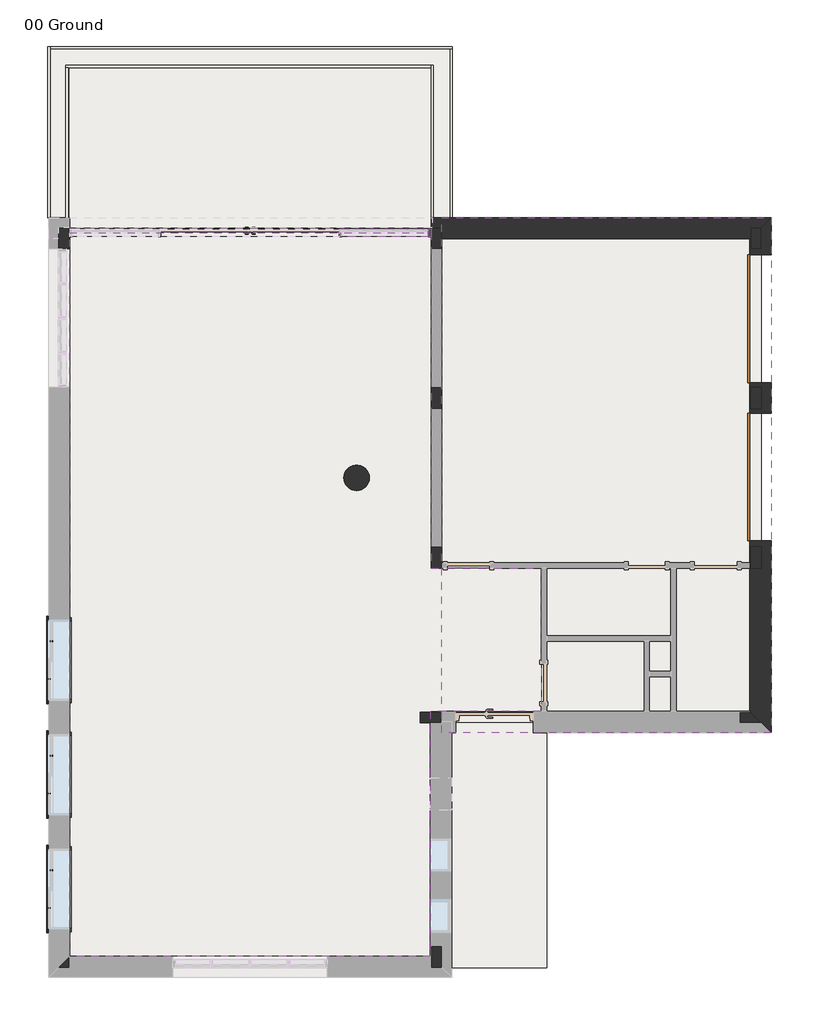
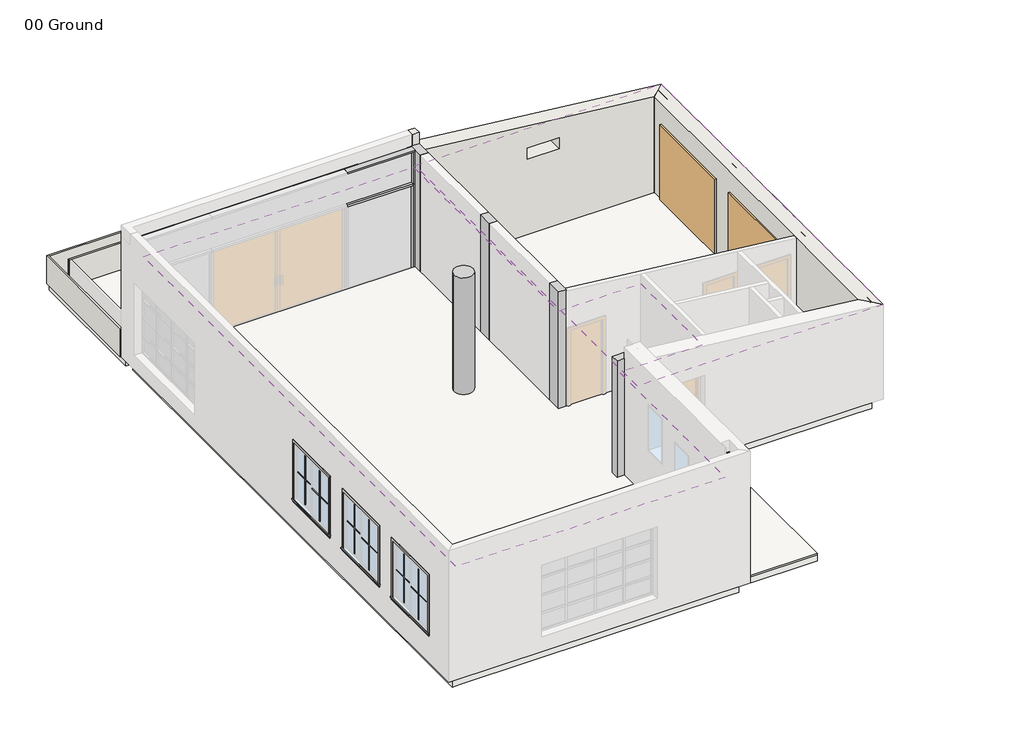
# One storey, part 3 of 3: 15 columns, 12 proxies, 8 walls, 6 slabs, 4 members, 2 doors, 1 covering, 1 roof.
"""IFC4 building model written with IfcOpenShell, lengths in millimetres."""

import ifcopenshell
import ifcopenshell.guid

model = None  # the IFC model being written
_history = None  # IfcOwnerHistory: only IFC2X3 demands one
_inside = {}  # id of a spatial element -> (the spatial element, [elements in it])
_under = {}  # id of a project, library or spatial element -> (it, [spatial elements below it])
_declared = {}  # id of a project -> (the project, [libraries it declares])
_typed = {}  # id of a type object -> (the type object, [elements of that type])
_made_of = {}  # id of a material, layer set ... -> (it, [elements and type objects made of it])


def new_model(schema):
    """Start an empty IFC model of exactly this schema.

    Asked for "IFC4X3", IfcOpenShell would pick the latest addendum, in which some entities
    have other attributes; the version numbers below select the first issue.
    IFC2X3 requires an IfcOwnerHistory on every rooted entity: one is made here for all.
    """
    global model, _history
    if schema == "IFC4X3":
        model = ifcopenshell.file(schema_version=(4, 3, 0, 0))
    else:
        model = ifcopenshell.file(schema=schema)
    _inside.clear()
    _under.clear()
    _declared.clear()
    _typed.clear()
    _made_of.clear()
    _history = None
    if model.schema == "IFC2X3":
        org = make("IfcOrganization", Name="unknown")
        user = make(
            "IfcPersonAndOrganization",
            ThePerson=make("IfcPerson", FamilyName="unknown"),
            TheOrganization=org,
        )
        app = make(
            "IfcApplication",
            ApplicationDeveloper=org,
            Version="unknown",
            ApplicationFullName="unknown",
            ApplicationIdentifier="unknown",
        )
        _history = make(
            "IfcOwnerHistory",
            OwningUser=user,
            OwningApplication=app,
            ChangeAction="ADDED",
            CreationDate=0,
        )
    return model


def make(cls, **values):
    """One entity of the class cls with the attributes given. An attribute that is None is left unset."""
    return model.create_entity(
        cls, **{name: value for name, value in values.items() if value is not None}
    )


def rooted(cls, **values):
    """An entity with a GlobalId (a new one), such as an element, a storey or a relation."""
    return make(cls, GlobalId=ifcopenshell.guid.new(), OwnerHistory=_history, **values)


def si_unit(unit_type, name, prefix=None):
    """IfcSIUnit, for example si_unit("LENGTHUNIT", "METRE", prefix="MILLI")."""
    return make("IfcSIUnit", UnitType=unit_type, Prefix=prefix, Name=name)


def assignment(units):
    """IfcUnitAssignment: the units of a project."""
    return None if units is None else make("IfcUnitAssignment", Units=units)


def point(xyz):
    """IfcCartesianPoint."""
    return None if xyz is None else make("IfcCartesianPoint", Coordinates=xyz)


def direction(xyz):
    """IfcDirection."""
    return None if xyz is None else make("IfcDirection", DirectionRatios=xyz)


def frame(location, z_axis=None, x_axis=None):
    """IfcAxis2Placement3D, a coordinate frame: its origin and axes. An axis left out is left unset."""
    return make(
        "IfcAxis2Placement3D",
        Location=point(location),
        Axis=direction(z_axis),
        RefDirection=direction(x_axis),
    )


def frame_2d(location, x_axis=None):
    """IfcAxis2Placement2D, a coordinate frame in the plane: its origin and x axis."""
    return make(
        "IfcAxis2Placement2D", Location=point(location), RefDirection=direction(x_axis)
    )


def origin():
    """The frame at (0, 0, 0) with its axes left unset."""
    return frame((0.0, 0.0, 0.0))


def origin_with_axes():
    """The frame at (0, 0, 0) with the z axis (0, 0, 1) and the x axis (1, 0, 0) written out."""
    return frame((0.0, 0.0, 0.0), z_axis=(0.0, 0.0, 1.0), x_axis=(1.0, 0.0, 0.0))


def place(relative_to, where):
    """IfcLocalPlacement: puts the frame where relative to a parent placement (None: the world)."""
    return make(
        "IfcLocalPlacement", PlacementRelTo=relative_to, RelativePlacement=where
    )


def context(
    kind, dimensions, precision=None, world=None, true_north=None, identifier=None
):
    """IfcGeometricRepresentationContext, for example the 3D "Model" context."""
    return make(
        "IfcGeometricRepresentationContext",
        ContextIdentifier=identifier,
        ContextType=kind,
        CoordinateSpaceDimension=dimensions,
        Precision=precision,
        WorldCoordinateSystem=world,
        TrueNorth=true_north,
    )


def project(units=None, contexts=None):
    """IfcProject with its units and contexts."""
    return rooted(
        "IfcProject",
        Name="project",
        RepresentationContexts=contexts,
        UnitsInContext=assignment(units),
    )


def spatial(cls, under=None, at=None, **own):
    """A site, building, storey or space (cls), placed at a placement, below another one or the project."""
    s = rooted(cls, ObjectPlacement=at, **own)
    if under is not None:
        _under.setdefault(under.id(), (under, []))[1].append(s)
    return s


def polyline(points):
    """IfcPolyline through the points."""
    return make("IfcPolyline", Points=[point(p) for p in points])


def circle_curve(where, radius):
    """IfcCircle in the frame where."""
    return make("IfcCircle", Position=where, Radius=radius)


def trimmed(basis, trim1, trim2, sense, master):
    """IfcTrimmedCurve: the piece of a basis curve between two trims."""
    return make(
        "IfcTrimmedCurve",
        BasisCurve=basis,
        Trim1=trim1,
        Trim2=trim2,
        SenseAgreement=sense,
        MasterRepresentation=master,
    )


def segment(curve, same_sense, transition):
    """IfcCompositeCurveSegment."""
    return make(
        "IfcCompositeCurveSegment",
        Transition=transition,
        SameSense=same_sense,
        ParentCurve=curve,
    )


def composite_curve(segments, self_intersect=None):
    """IfcCompositeCurve: segments joined end to end."""
    return make("IfcCompositeCurve", Segments=segments, SelfIntersect=self_intersect)


def outline(outer, holes=None, kind="AREA"):
    """IfcArbitraryClosedProfileDef: a profile drawn as a closed curve; with holes, ...WithVoids."""
    if holes is None:
        return make("IfcArbitraryClosedProfileDef", ProfileType=kind, OuterCurve=outer)
    return make(
        "IfcArbitraryProfileDefWithVoids",
        ProfileType=kind,
        OuterCurve=outer,
        InnerCurves=holes,
    )


def extrude(swept, where, along, depth):
    """IfcExtrudedAreaSolid: the profile swept, set in the frame where, extruded along a direction by depth."""
    return make(
        "IfcExtrudedAreaSolid",
        SweptArea=swept,
        Position=where,
        ExtrudedDirection=direction(along),
        Depth=depth,
    )


def faces_of(points, faces, orient=None, outer=None):
    """IfcFace entities. A face is a list of loops; a loop is a list of indices into points, from 0.

    orient and outer hold one flag for each loop. By default every Orientation is true, the
    first loop of a face is its IfcFaceOuterBound and the others are IfcFaceBound.
    """
    made = []
    for i, loops in enumerate(faces):
        bounds = []
        for j, loop in enumerate(loops):
            is_outer = j == 0 if outer is None else outer[i][j]
            bounds.append(
                make(
                    "IfcFaceOuterBound" if is_outer else "IfcFaceBound",
                    Bound=make("IfcPolyLoop", Polygon=[points[k] for k in loop]),
                    Orientation=True if orient is None else orient[i][j],
                )
            )
        made.append(make("IfcFace", Bounds=bounds))
    return made


def faceted_brep(points, faces, orient=None, outer=None, voids=None):
    """IfcFacetedBrep: a solid bounded by flat faces; with voids (closed shells), ...WithVoids."""
    shared = [point(p) for p in points]
    hull = make("IfcClosedShell", CfsFaces=faces_of(shared, faces, orient, outer))
    if voids is None:
        return make("IfcFacetedBrep", Outer=hull)
    return make(
        "IfcFacetedBrepWithVoids",
        Outer=hull,
        Voids=[
            make(cls, CfsFaces=faces_of(shared, fs, o, b)) for cls, fs, o, b in voids
        ],
    )


def shape(context_of_items, identifier, shape_type, items):
    """IfcShapeRepresentation: the items that make up one representation, for example the "Body"."""
    return make(
        "IfcShapeRepresentation",
        ContextOfItems=context_of_items,
        RepresentationIdentifier=identifier,
        RepresentationType=shape_type,
        Items=items,
    )


def source(mapping_origin, context_of_items, identifier, shape_type, items):
    """IfcRepresentationMap: a shape defined once, which mapped items show again and again."""
    return make(
        "IfcRepresentationMap",
        MappingOrigin=mapping_origin,
        MappedRepresentation=shape(context_of_items, identifier, shape_type, items),
    )


def transform(
    local_origin,
    x_axis=None,
    y_axis=None,
    z_axis=None,
    scale=None,
    scale2=None,
    scale3=None,
    uniform=True,
):
    """IfcCartesianTransformationOperator3D, or its non-uniform kind. x_axis, y_axis, z_axis: its Axis1, 2, 3."""
    if uniform:
        return make(
            "IfcCartesianTransformationOperator3D",
            Axis1=direction(x_axis),
            Axis2=direction(y_axis),
            LocalOrigin=point(local_origin),
            Scale=scale,
            Axis3=direction(z_axis),
        )
    return make(
        "IfcCartesianTransformationOperator3DnonUniform",
        Axis1=direction(x_axis),
        Axis2=direction(y_axis),
        LocalOrigin=point(local_origin),
        Scale=scale,
        Axis3=direction(z_axis),
        Scale2=scale2,
        Scale3=scale3,
    )


def mapped(mapping_source, mapping_target):
    """IfcMappedItem: shows the shape of a source again, moved by a transform."""
    return make(
        "IfcMappedItem", MappingSource=mapping_source, MappingTarget=mapping_target
    )


def made_of(thing, what):
    """Note that an element or type object is made of a material, layer set ...; save() writes the relation."""
    if what is not None:
        _made_of.setdefault(what.id(), (what, []))[1].append(thing)
    return thing


def element(
    cls,
    number,
    at=None,
    inside=None,
    cuts=None,
    type_object=None,
    material=None,
    context=None,
    identifier="Body",
    shape_type=None,
    held_by="IfcProductDefinitionShape",
    body=None,
    shapes=None,
    **own,
):
    """One element of the class cls, such as IfcWall. Its Tag is "e" and its number.

    at: its placement. inside: the storey or other place that contains it. cuts: it is an
    opening in that element (IfcRelVoidsElement). A single representation is given by context,
    identifier, shape_type and body (its items); several are given by shapes. held_by: the class
    of the entity that holds the representations. save() writes the other relations.
    """
    e = rooted(cls, Tag="e%d" % number, ObjectPlacement=at, **own)
    if body is not None:
        shapes = [shape(context, identifier, shape_type, body)]
    if shapes is not None:
        e.Representation = make(held_by, Representations=shapes)
    if inside is not None:
        _inside.setdefault(inside.id(), (inside, []))[1].append(e)
    if cuts is not None:
        rooted(
            "IfcRelVoidsElement", RelatingBuildingElement=cuts, RelatedOpeningElement=e
        )
    if type_object is not None:
        _typed.setdefault(type_object.id(), (type_object, []))[1].append(e)
    return made_of(e, material)


def aggregate(whole, parts):
    """IfcRelAggregates: a whole, such as a stair, and the parts it consists of."""
    return rooted("IfcRelAggregates", RelatingObject=whole, RelatedObjects=parts)


def save(model, path):
    """Write the relations noted so far, then the file.

    IfcRelAggregates (storeys below a building ...), IfcRelContainedInSpatialStructure (elements
    in a storey), IfcRelDefinesByType, IfcRelAssociatesMaterial and IfcRelDeclares: one each for
    every whole, place, type object, material and project.
    """
    for whole, parts in _under.values():
        aggregate(whole, parts)
    for where, things in _inside.values():
        rooted(
            "IfcRelContainedInSpatialStructure",
            RelatedElements=things,
            RelatingStructure=where,
        )
    for kind, things in _typed.values():
        rooted("IfcRelDefinesByType", RelatedObjects=things, RelatingType=kind)
    for what, things in _made_of.values():
        rooted("IfcRelAssociatesMaterial", RelatedObjects=things, RelatingMaterial=what)
    for by, libraries in _declared.values():
        rooted("IfcRelDeclares", RelatingContext=by, RelatedDefinitions=libraries)
    model.write(path)


def plane_surface(at):
    """IfcPlane: the flat surface through the origin of the frame at, square to its z axis."""
    return make("IfcPlane", Position=at)


def cylinder_surface(at, radius):
    """IfcCylindricalSurface: all points at the distance radius from the z axis of the frame at."""
    return make("IfcCylindricalSurface", Position=at, Radius=radius)


def advanced_brep(points, edges, surfaces, faces):
    """IfcAdvancedBrep: a solid bounded by faces that lie on surfaces and meet in shared edges.

    An edge is (start, end): straight between two places in points (the first is 0);
    or (start, end, curve); or (start, end, curve, False) where it runs against its curve.
    A face is (place in surfaces, loops), or (place, loops, False) where it looks against
    its surface's normal. A loop lists edges by number (the first is 1), with a minus sign
    where the edge is run from its end to its start. The first loop is the outer one.
    """
    corners = [point(p) for p in points]
    vertices = [make("IfcVertexPoint", VertexGeometry=c) for c in corners]
    made = []
    for start, end, *more in edges:
        made.append(
            make(
                "IfcEdgeCurve",
                EdgeStart=vertices[start],
                EdgeEnd=vertices[end],
                EdgeGeometry=more[0] if more else make("IfcPolyline", Points=[corners[start], corners[end]]),
                SameSense=more[1] if len(more) > 1 else True,
            )
        )
    hull = []
    for where, loops, *sense in faces:
        bounds = []
        for j, loop in enumerate(loops):
            ring = [make("IfcOrientedEdge", EdgeElement=made[abs(k) - 1], Orientation=k > 0) for k in loop]
            bounds.append(
                make(
                    "IfcFaceOuterBound" if j == 0 else "IfcFaceBound",
                    Bound=make("IfcEdgeLoop", EdgeList=ring),
                    Orientation=True,
                )
            )
        hull.append(make("IfcAdvancedFace", Bounds=bounds, FaceSurface=surfaces[where], SameSense=sense[0] if sense else True))
    return make("IfcAdvancedBrep", Outer=make("IfcClosedShell", CfsFaces=hull))


def m_muntin_pattern_2x2_m_muntin_pattern_2x2_30659562(model_context):
    return source(origin(), model_context, "Body", "SweptSolid", [
        extrude(outline(polyline([(683.325, -6.35), (683.325, -332.1375), (670.625, -332.1375), (670.625, -6.35), (0.0, -6.35), (0.0, 6.35), (670.625, 6.35), (670.625, 332.1375), (683.325, 332.1375), (683.325, 6.35), (1353.95, 6.35), (1353.95, -6.35), (683.325, -6.35)])), frame((0.0, 9.525, 0.0), z_axis=(0.0, 1.0, 0.0), x_axis=(0.0, 0.0, 1.0)), (0.0, 0.0, 1.0), 12.7),
        extrude(outline(polyline([(683.325, -6.35), (683.325, -332.1375), (670.625, -332.1375), (670.625, -6.35), (0.0, -6.35), (0.0, 6.35), (670.625, 6.35), (670.625, 332.1375), (683.325, 332.1375), (683.325, 6.35), (1353.95, 6.35), (1353.95, -6.35), (683.325, -6.35)])), frame((0.0, -22.225, 0.0), z_axis=(0.0, 1.0, 0.0), x_axis=(0.0, 0.0, 1.0)), (0.0, 0.0, 1.0), 12.7),
    ])


def m_trim_window_exterior_flat_with_sill_22923e22(model_context):
    return source(origin(), model_context, "Body", "SweptSolid", [
        extrude(outline(polyline([(810.0, -1520.4323709), (810.0, -1580.4323709), (-810.0, -1580.4323709), (-810.0, -1520.4323709), (810.0, -1520.4323709)])), origin_with_axes(), (0.0, 0.0, 1.0), 19.05),
        extrude(outline(polyline([(-1530.0, 38.1), (-1502.4580645, 38.1), (-1500.0, 19.05), (-1500.0, 0.0), (-1520.4323709, 0.0), (-1520.4323709, 19.05), (-1530.0, 19.05), (-1530.0, 38.1)])), frame((-822.7, 0.0, 0.0), z_axis=(1.0, 0.0, 0.0), x_axis=(0.0, 1.0, 0.0)), (0.0, 0.0, 1.0), 1645.4),
        extrude(outline(polyline([(-810.0, 60.0), (810.0, 60.0), (810.0, -1500.0), (750.0, -1500.0), (750.0, 0.0), (-750.0, 0.0), (-750.0, -1500.0), (-810.0, -1500.0), (-810.0, 60.0)])), origin_with_axes(), (0.0, 0.0, 1.0), 19.05),
    ])


def m_trim_window_interior_flat_picture_frame_2e224720(model_context):
    return source(origin(), model_context, "Body", "SweptSolid", [
        extrude(outline(polyline([(797.3, 47.3), (797.3, -1547.3), (-797.3, -1547.3), (-797.3, 47.3), (797.3, 47.3)]), holes=[polyline([(737.3, -12.7), (-737.3, -12.7), (-737.3, -1487.3), (737.3, -1487.3), (737.3, -12.7)])]), origin_with_axes(), (0.0, 0.0, 1.0), 30.0),
    ])


def m_door_overhead_sectional_2400_x_2000mm_9fe30cd6(model_context):
    return source(origin(), model_context, "Body", "SweptSolid", [
        extrude(outline(polyline([(1200.0, -199.0), (1200.0, -239.0), (-1200.0, -239.0), (-1200.0, -199.0), (1200.0, -199.0)])), origin_with_axes(), (0.0, 0.0, 1.0), 2000.0),
    ])


def rectangular_mullion_50_x_150mm_c8600b0d(model_context):
    return source(origin(), model_context, "Body", "SweptSolid", [
        extrude(outline(polyline([(0.0, 75.0), (0.0, -75.0), (-50.0, -75.0), (-50.0, 75.0), (0.0, 75.0)])), frame((0.0, 0.0, -1700.0), z_axis=(0.0, 0.0, 1.0), x_axis=(1.0, 0.0, 0.0)), (0.0, 0.0, 1.0), 1700.0),
    ])


def rectangular_mullion_50_x_150mm_7893aaae(model_context):
    return source(origin(), model_context, "Body", "SweptSolid", [
        extrude(outline(polyline([(25.0, 75.0), (25.0, -75.0), (-25.0, -75.0), (-25.0, 75.0), (25.0, 75.0)])), frame((0.0, 0.0, -1650.0), z_axis=(0.0, 0.0, 1.0), x_axis=(1.0, 0.0, 0.0)), (0.0, 0.0, 1.0), 1650.0),
    ])


def rectangular_mullion_50_x_150mm_8753ce05(model_context):
    return source(origin(), model_context, "Body", "SweptSolid", [
        extrude(outline(polyline([(0.0, 75.0), (0.0, -75.0), (-50.0, -75.0), (-50.0, 75.0), (0.0, 75.0)])), frame((0.0, 0.0, -2300.0), z_axis=(0.0, 0.0, 1.0), x_axis=(1.0, 0.0, 0.0)), (0.0, 0.0, 1.0), 2300.0),
    ])


def rectangular_mullion_50_x_150mm_324a6438(model_context):
    return source(origin(), model_context, "Body", "SweptSolid", [
        extrude(outline(polyline([(0.0, 75.0), (0.0, -75.0), (-50.0, -75.0), (-50.0, 75.0), (0.0, 75.0)])), frame((0.0, 0.0, -850.0), z_axis=(0.0, 0.0, 1.0), x_axis=(1.0, 0.0, 0.0)), (0.0, 0.0, 1.0), 850.0),
    ])


model = new_model("IFC4")

# Units and contexts
model_context = context("Model", 3, world=origin())
ifc_project = project(units=[si_unit("LENGTHUNIT", "METRE", prefix="MILLI")], contexts=[model_context])

# Site, building, storey
site = spatial("IfcSite", under=ifc_project)
building = spatial("IfcBuilding", under=site)
storey = spatial("IfcBuildingStorey", under=building, Name="00 Ground", Elevation=0.0)

# Proxies
placement = place(None, origin())
m_muntin_pattern_2x2_m_muntin_pattern_2x2_shape = m_muntin_pattern_2x2_m_muntin_pattern_2x2_30659562(model_context)
element("IfcBuildingElementProxy", 1, Name="M_Muntin Pattern_2x2 : M_Muntin Pattern_2x2", ObjectType="M_Muntin Pattern_2x2 : M_Muntin Pattern_2x2", at=placement, inside=storey, context=model_context, shape_type="MappedRepresentation", body=[
    mapped(m_muntin_pattern_2x2_m_muntin_pattern_2x2_shape, transform((-8453.5657999, -5733.3476648, 882.55), x_axis=(0.0, 1.0, 0.0), y_axis=(-1.0, 0.0, 0.0), z_axis=(0.0, 0.0, 1.0))),
])
element("IfcBuildingElementProxy", 2, Name="M_Muntin Pattern_2x2 : M_Muntin Pattern_2x2", ObjectType="M_Muntin Pattern_2x2 : M_Muntin Pattern_2x2", at=placement, inside=storey, context=model_context, shape_type="MappedRepresentation", body=[
    mapped(m_muntin_pattern_2x2_m_muntin_pattern_2x2_shape, transform((-8498.0157999, -6442.0726648, 882.55), x_axis=(0.0, 1.0, 0.0), y_axis=(-1.0, 0.0, 0.0), z_axis=(0.0, 0.0, 1.0))),
])
element("IfcBuildingElementProxy", 3, Name="M_Muntin Pattern_2x2 : M_Muntin Pattern_2x2", ObjectType="M_Muntin Pattern_2x2 : M_Muntin Pattern_2x2", at=placement, inside=storey, context=model_context, shape_type="MappedRepresentation", body=[
    mapped(m_muntin_pattern_2x2_m_muntin_pattern_2x2_shape, transform((-8453.5657999, -3583.3476648, 882.55), x_axis=(0.0, 1.0, 0.0), y_axis=(-1.0, 0.0, 0.0), z_axis=(0.0, 0.0, 1.0))),
])
element("IfcBuildingElementProxy", 4, Name="M_Muntin Pattern_2x2 : M_Muntin Pattern_2x2", ObjectType="M_Muntin Pattern_2x2 : M_Muntin Pattern_2x2", at=placement, inside=storey, context=model_context, shape_type="MappedRepresentation", body=[
    mapped(m_muntin_pattern_2x2_m_muntin_pattern_2x2_shape, transform((-8498.0157999, -4292.0726648, 882.55), x_axis=(0.0, 1.0, 0.0), y_axis=(-1.0, 0.0, 0.0), z_axis=(0.0, 0.0, 1.0))),
])
element("IfcBuildingElementProxy", 5, Name="M_Muntin Pattern_2x2 : M_Muntin Pattern_2x2", ObjectType="M_Muntin Pattern_2x2 : M_Muntin Pattern_2x2", at=placement, inside=storey, context=model_context, shape_type="MappedRepresentation", body=[
    mapped(m_muntin_pattern_2x2_m_muntin_pattern_2x2_shape, transform((-8453.5657999, -1433.3476648, 882.55), x_axis=(0.0, 1.0, 0.0), y_axis=(-1.0, 0.0, 0.0), z_axis=(0.0, 0.0, 1.0))),
])
element("IfcBuildingElementProxy", 6, Name="M_Muntin Pattern_2x2 : M_Muntin Pattern_2x2", ObjectType="M_Muntin Pattern_2x2 : M_Muntin Pattern_2x2", at=placement, inside=storey, context=model_context, shape_type="MappedRepresentation", body=[
    mapped(m_muntin_pattern_2x2_m_muntin_pattern_2x2_shape, transform((-8498.0157999, -2142.0726648, 882.55), x_axis=(0.0, 1.0, 0.0), y_axis=(-1.0, 0.0, 0.0), z_axis=(0.0, 0.0, 1.0))),
])
m_trim_window_exterior_flat_with_sill_shape = m_trim_window_exterior_flat_with_sill_22923e22(model_context)
element("IfcBuildingElementProxy", 7, Name="M_Trim-Window-Exterior-Flat : with Sill", ObjectType="M_Trim-Window-Exterior-Flat : with Sill", at=placement, inside=storey, context=model_context, shape_type="MappedRepresentation", body=[
    mapped(m_trim_window_exterior_flat_with_sill_shape, transform((-8507.5407999, -6087.7101648, 2300.0), x_axis=(0.0, -1.0, 0.0), y_axis=(0.0, 0.0, 1.0), z_axis=(-1.0, 0.0, 0.0))),
])
element("IfcBuildingElementProxy", 8, Name="M_Trim-Window-Exterior-Flat : with Sill", ObjectType="M_Trim-Window-Exterior-Flat : with Sill", at=placement, inside=storey, context=model_context, shape_type="MappedRepresentation", body=[
    mapped(m_trim_window_exterior_flat_with_sill_shape, transform((-8507.5407999, -3937.7101648, 2300.0), x_axis=(0.0, -1.0, 0.0), y_axis=(0.0, 0.0, 1.0), z_axis=(-1.0, 0.0, 0.0))),
])
element("IfcBuildingElementProxy", 9, Name="M_Trim-Window-Exterior-Flat : with Sill", ObjectType="M_Trim-Window-Exterior-Flat : with Sill", at=placement, inside=storey, context=model_context, shape_type="MappedRepresentation", body=[
    mapped(m_trim_window_exterior_flat_with_sill_shape, transform((-8507.5407999, -1787.7101648, 2300.0), x_axis=(0.0, -1.0, 0.0), y_axis=(0.0, 0.0, 1.0), z_axis=(-1.0, 0.0, 0.0))),
])
m_trim_window_interior_flat_picture_frame_shape = m_trim_window_interior_flat_picture_frame_2e224720(model_context)
element("IfcBuildingElementProxy", 10, Name="M_Trim-Window-Interior-Flat : Picture Frame", ObjectType="M_Trim-Window-Interior-Flat : Picture Frame", at=placement, inside=storey, context=model_context, shape_type="MappedRepresentation", body=[
    mapped(m_trim_window_interior_flat_picture_frame_shape, transform((-8109.5407999, -6087.7101648, 2300.0), x_axis=(0.0, 1.0, 0.0), y_axis=(0.0, 0.0, 1.0), z_axis=(1.0, 0.0, 0.0))),
])
element("IfcBuildingElementProxy", 11, Name="M_Trim-Window-Interior-Flat : Picture Frame", ObjectType="M_Trim-Window-Interior-Flat : Picture Frame", at=placement, inside=storey, context=model_context, shape_type="MappedRepresentation", body=[
    mapped(m_trim_window_interior_flat_picture_frame_shape, transform((-8109.5407999, -3937.7101648, 2300.0), x_axis=(0.0, 1.0, 0.0), y_axis=(0.0, 0.0, 1.0), z_axis=(1.0, 0.0, 0.0))),
])
element("IfcBuildingElementProxy", 12, Name="M_Trim-Window-Interior-Flat : Picture Frame", ObjectType="M_Trim-Window-Interior-Flat : Picture Frame", at=placement, inside=storey, context=model_context, shape_type="MappedRepresentation", body=[
    mapped(m_trim_window_interior_flat_picture_frame_shape, transform((-8109.5407999, -1787.7101648, 2300.0), x_axis=(0.0, 1.0, 0.0), y_axis=(0.0, 0.0, 1.0), z_axis=(1.0, 0.0, 0.0))),
])

# Columns
element("IfcColumn", 13, ObjectType="M_Concrete-Rectangular-Column : 200 x 400mm", at=placement, inside=storey, context=model_context, shape_type="Brep", body=[
    faceted_brep([(-8122.5407999, 6337.2898352, 0.0), (-8122.5407999, 5937.2898352, 0.0), (-8322.5407999, 5937.2898352, 0.0), (-8322.5407999, 6337.2898352, 0.0), (-8122.5407999, 6337.2898352, 3200.0), (-8122.5407999, 5937.2898352, 3200.0), (-8122.5407999, 5937.2898352, 2300.0), (-8122.5407999, 5937.2898352, 400.0), (-8322.5407999, 5937.2898352, 3200.0), (-8322.5407999, 5937.2898352, 2300.0), (-8322.5407999, 5937.2898352, 400.0), (-8322.5407999, 6124.2898352, 3200.0), (-8322.5407999, 6337.2898352, 3200.0)], [[[0, 1, 2, 3]], [[1, 0, 4, 5, 6, 7]], [[2, 1, 7, 6, 5, 8, 9, 10]], [[3, 2, 10, 9, 8, 11, 12]], [[0, 3, 12, 4]], [[5, 4, 12, 11, 8]]]),
])
element("IfcColumn", 14, ObjectType="M_Concrete-Rectangular-Column : 200 x 400mm", at=placement, inside=storey, context=model_context, shape_type="SweptSolid", body=[
    extrude(outline(polyline([(-8122.5407999, 3337.2898352), (-8122.5407999, 2937.2898352), (-8322.5407999, 2937.2898352), (-8322.5407999, 3337.2898352), (-8122.5407999, 3337.2898352)])), origin_with_axes(), (0.0, 0.0, 1.0), 3200.0),
])
element("IfcColumn", 15, ObjectType="M_Concrete-Rectangular-Column : 200 x 400mm", at=placement, inside=storey, context=model_context, shape_type="SweptSolid", body=[
    extrude(outline(polyline([(-8122.5407999, 337.2898352), (-8122.5407999, -62.7101648), (-8322.5407999, -62.7101648), (-8322.5407999, 337.2898352), (-8122.5407999, 337.2898352)])), origin_with_axes(), (0.0, 0.0, 1.0), 3200.0),
])
element("IfcColumn", 16, ObjectType="M_Concrete-Rectangular-Column : 200 x 400mm", at=placement, inside=storey, context=model_context, shape_type="SweptSolid", body=[
    extrude(outline(polyline([(-8122.5407999, -2662.7101648), (-8122.5407999, -3062.7101648), (-8322.5407999, -3062.7101648), (-8322.5407999, -2662.7101648), (-8122.5407999, -2662.7101648)])), origin_with_axes(), (0.0, 0.0, 1.0), 3200.0),
])
element("IfcColumn", 17, ObjectType="M_Concrete-Rectangular-Column : 200 x 400mm", at=placement, inside=storey, context=model_context, shape_type="SweptSolid", body=[
    extrude(outline(polyline([(-1122.5407999, 337.2898352), (-1122.5407999, -62.7101648), (-1322.5407999, -62.7101648), (-1322.5407999, 337.2898352), (-1122.5407999, 337.2898352)])), origin_with_axes(), (0.0, 0.0, 1.0), 3200.0),
])
element("IfcColumn", 18, ObjectType="M_Concrete-Rectangular-Column : 200 x 400mm", at=placement, inside=storey, context=model_context, shape_type="Brep", body=[
    faceted_brep([(-1522.5407999, -2762.7101648, 0.0), (-1122.5407999, -2762.7101648, 0.0), (-1122.5407999, -2948.7101648, 0.0), (-1122.5407999, -2962.7101648, 0.0), (-1335.5407999, -2962.7101648, 0.0), (-1522.5407999, -2962.7101648, 0.0), (-1522.5407999, -2762.7101648, 3200.0), (-1122.5407999, -2762.7101648, 3200.0), (-1122.5407999, -2962.7101648, 3200.0), (-1522.5407999, -2962.7101648, 3200.0)], [[[0, 1, 2, 3, 4, 5]], [[1, 0, 6, 7]], [[3, 2, 1, 7, 8]], [[5, 4, 3, 8, 9]], [[0, 5, 9, 6]], [[7, 6, 9, 8]]]),
])
element("IfcColumn", 19, ObjectType="M_Concrete-Rectangular-Column : 200 x 400mm", at=placement, inside=storey, context=model_context, shape_type="Brep", body=[
    faceted_brep([(4877.4592001, 6337.2898352, 0.0), (4877.4592001, 5937.2898352, 0.0), (4677.4592001, 5937.2898352, 0.0), (4677.4592001, 6137.2898352, 0.0), (4677.4592001, 6337.2898352, 0.0), (4877.4592001, 6337.2898352, 2519.7413096), (4877.4592001, 5937.2898352, 2519.7413096), (4677.4592001, 5937.2898352, 2519.7413096), (4677.4592001, 6137.2898352, 2519.7413096), (4677.4592001, 6337.2898352, 2519.7413096)], [[[0, 1, 2, 3, 4]], [[5, 6, 1, 0]], [[6, 7, 2, 1]], [[7, 8, 9, 4, 3, 2]], [[9, 5, 0, 4]], [[5, 9, 8, 7, 6]]]),
])
element("IfcColumn", 20, ObjectType="M_Concrete-Rectangular-Column : 200 x 400mm", at=placement, inside=storey, context=model_context, shape_type="Brep", body=[
    faceted_brep([(-1122.5407999, 6337.2898352, 0.0), (-1122.5407999, 6124.2898352, 0.0), (-1122.5407999, 5937.2898352, 0.0), (-1322.5407999, 5937.2898352, 0.0), (-1322.5407999, 6337.2898352, 0.0), (-1122.5407999, 6337.2898352, 3160.0), (-1122.5407999, 6337.2898352, 3200.0), (-1122.5407999, 5937.2898352, 3200.0), (-1322.5407999, 5937.2898352, 3200.0), (-1322.5407999, 6337.2898352, 3200.0), (-1300.0407999, 6337.2898352, 3200.0)], [[[0, 1, 2, 3, 4]], [[2, 1, 0, 5, 6, 7]], [[3, 2, 7, 8]], [[4, 3, 8, 9]], [[0, 4, 9, 10, 6, 5]], [[7, 6, 10, 9, 8]]]),
])
element("IfcColumn", 21, ObjectType="M_Concrete-Rectangular-Column : 200 x 400mm", at=placement, inside=storey, context=model_context, shape_type="SweptSolid", body=[
    extrude(outline(polyline([(-1122.5407999, 3337.2898352), (-1122.5407999, 2937.2898352), (-1322.5407999, 2937.2898352), (-1322.5407999, 3337.2898352), (-1122.5407999, 3337.2898352)])), origin_with_axes(), (0.0, 0.0, 1.0), 3200.0),
])
element("IfcColumn", 22, ObjectType="M_Concrete-Rectangular-Column : 200 x 400mm", at=placement, inside=storey, context=model_context, shape_type="SweptSolid", body=[
    extrude(outline(polyline([(4877.4592001, 3337.2898352), (4877.4592001, 2937.2898352), (4677.4592001, 2937.2898352), (4677.4592001, 3337.2898352), (4877.4592001, 3337.2898352)])), origin_with_axes(), (0.0, 0.0, 1.0), 2519.7413096),
])
element("IfcColumn", 23, ObjectType="M_Concrete-Rectangular-Column : 200 x 400mm", at=placement, inside=storey, context=model_context, shape_type="Brep", body=[
    faceted_brep([(4477.4592001, -2762.7101648, 0.0), (4677.4592001, -2762.7101648, 0.0), (4877.4592001, -2762.7101648, 0.0), (4877.4592001, -2962.7101648, 0.0), (4477.4592001, -2962.7101648, 0.0), (4477.4592001, -2762.7101648, 2519.7413096), (4677.4592001, -2762.7101648, 2519.7413096), (4877.4592001, -2762.7101648, 2519.7413096), (4877.4592001, -2962.7101648, 2519.7413096), (4477.4592001, -2962.7101648, 2519.7413096)], [[[0, 1, 2, 3, 4]], [[5, 6, 7, 2, 1, 0]], [[7, 8, 3, 2]], [[8, 9, 4, 3]], [[9, 5, 0, 4]], [[5, 9, 8, 7, 6]]]),
])
element("IfcColumn", 24, ObjectType="M_Concrete-Rectangular-Column : 200 x 400mm", at=placement, inside=storey, context=model_context, shape_type="SweptSolid", body=[
    extrude(outline(polyline([(4677.4592001, -62.7101648), (4677.4592001, 337.2898352), (4877.4592001, 337.2898352), (4877.4592001, -62.7101648), (4677.4592001, -62.7101648)])), origin_with_axes(), (0.0, 0.0, 1.0), 2519.7413096),
])
element("IfcColumn", 25, ObjectType="M_Concrete-Rectangular-Column : 200 x 400mm", at=placement, inside=storey, context=model_context, shape_type="Brep", body=[
    faceted_brep([(-8122.5407999, -7162.7101648, 0.0), (-8122.5407999, -7362.7101648, 0.0), (-8122.5407999, -7562.7101648, 0.0), (-8322.5407999, -7562.7101648, 0.0), (-8322.5407999, -7162.7101648, 0.0), (-8122.5407999, -7162.7101648, 3200.0), (-8122.5407999, -7362.7101648, 3200.0), (-8122.5407999, -7562.7101648, 3200.0), (-8322.5407999, -7562.7101648, 3200.0), (-8322.5407999, -7162.7101648, 3200.0)], [[[0, 1, 2, 3, 4]], [[2, 1, 0, 5, 6, 7]], [[3, 2, 7, 8]], [[4, 3, 8, 9]], [[0, 4, 9, 5]], [[7, 6, 5, 9, 8]]]),
])
element("IfcColumn", 26, ObjectType="M_Concrete-Rectangular-Column : 200 x 400mm", at=placement, inside=storey, context=model_context, shape_type="Brep", body=[
    faceted_brep([(-1122.5407999, -7162.7101648, 0.0), (-1122.5407999, -7562.7101648, 0.0), (-1322.5407999, -7562.7101648, 0.0), (-1322.5407999, -7362.7101648, 0.0), (-1322.5407999, -7162.7101648, 0.0), (-1122.5407999, -7162.7101648, 3200.0), (-1122.5407999, -7562.7101648, 3200.0), (-1322.5407999, -7562.7101648, 3200.0), (-1322.5407999, -7362.7101648, 3200.0), (-1322.5407999, -7162.7101648, 3200.0)], [[[0, 1, 2, 3, 4]], [[1, 0, 5, 6]], [[2, 1, 6, 7]], [[4, 3, 2, 7, 8, 9]], [[0, 4, 9, 5]], [[6, 5, 9, 8, 7]]]),
])
element("IfcColumn", 27, ObjectType="M_Concrete-Round-Column : 480mm", at=placement, inside=storey, context=model_context, shape_type="AdvancedBrep", body=[
    advanced_brep(
    [(-2962.5407999, 1637.2898352, 0.0), (-2482.5407999, 1637.2898352, 0.0), (-2962.5407999, 1637.2898352, 3200.0), (-2482.5407999, 1637.2898352, 3200.0), (-2722.1476319, 1397.2901573, 3200.0)],
    [
        (0, 1, circle_curve(frame((-2722.5407999, 1637.2898352, 0.0), z_axis=(0.0, 0.0, -1.0), x_axis=(1.0, 0.0, 0.0)), 240.0)),
        (1, 0, circle_curve(frame((-2722.5407999, 1637.2898352, 0.0), z_axis=(0.0, 0.0, -1.0), x_axis=(1.0, 0.0, 0.0)), 240.0)),
        (0, 2),
        (2, 3, circle_curve(frame((-2722.5407999, 1637.2898352, 3200.0), z_axis=(0.0, 0.0, -1.0), x_axis=(1.0, 0.0, 0.0)), 240.0)),
        (3, 1),
        (3, 4, circle_curve(frame((-2722.5407999, 1637.2898352, 3200.0), z_axis=(0.0, 0.0, -1.0), x_axis=(1.0, 0.0, 0.0)), 240.0)),
        (4, 2, circle_curve(frame((-2722.5407999, 1637.2898352, 3200.0), z_axis=(0.0, 0.0, -1.0), x_axis=(1.0, 0.0, 0.0)), 240.0)),
    ],
    [
        plane_surface(frame((-2482.5407999, 1637.2898352, 0.0), z_axis=(0.0, 0.0, -1.0), x_axis=(0.0, -1.0, 0.0))),
        cylinder_surface(frame((-2722.5407999, 1637.2898352, 0.0), z_axis=(0.0, 0.0, 1.0), x_axis=(1.0, 0.0, 0.0)), 240.0),
        plane_surface(frame((4877.4592001, 6337.2898352, 3200.0), z_axis=(0.0, 0.0, 1.0), x_axis=(1.0, 0.0, 0.0))),
    ],
    [
        (0, [[1, 2]]),
        (1, [[-1, 3, 4, 5]]),
        (1, [[-2, -5, 6, 7, -3]]),
        (2, [[-4, -7, -6]]),
    ],
),
])

# Covering
element("IfcCovering", 28, ObjectType="600 x 600mm Grid", at=placement, inside=storey, context=model_context, shape_type="SweptSolid", body=[
    extrude(outline(polyline([(746.9592001, -2749.7101648), (-1335.5407999, -2749.7101648), (-1335.5407999, -7349.7101648), (-8109.5407999, -7349.7101648), (-8109.5407999, 6242.2898352), (-1322.5407999, 6242.2898352), (-1322.5407999, -62.7101648), (746.9592001, -62.7101648), (746.9592001, -2749.7101648)]), holes=[composite_curve([segment(polyline([(-3762.5550463, 1637.3625525), (-2962.1657331, 1637.3625525)]), True, "CONTINUOUS"), segment(trimmed(circle_curve(frame_2d((-2722.147977, 1637.3625525)), 240.0177561), [point((-2962.1657331, 1637.3625525))], [point((-2722.147977, 1397.3447964))], False, "CARTESIAN"), True, "CONTINUOUS"), segment(polyline([(-2722.147977, 1397.3447964), (-2709.6572376, 597.4130295)]), True, "CONTINUOUS"), segment(trimmed(circle_curve(frame_2d((-2722.5259059, 1637.3625525)), 1040.0291404), [point((-2709.6572376, 597.4130295))], [point((-3762.5550463, 1637.3625525))], True, "CARTESIAN"), True, "CONTINUOUS")], self_intersect=False)]), frame((0.0, 0.0, 2700.0), z_axis=(0.0, 0.0, 1.0), x_axis=(1.0, 0.0, 0.0)), (0.0, 0.0, 1.0), 52.0),
])

# Doors
m_door_overhead_sectional_2400_x_2000mm_shape = m_door_overhead_sectional_2400_x_2000mm_9fe30cd6(model_context)
element("IfcDoor", 29, ObjectType="M_Door-Overhead-Sectional : 2400 x 2000mm", at=placement, inside=storey, context=model_context, shape_type="MappedRepresentation", body=[
    mapped(m_door_overhead_sectional_2400_x_2000mm_shape, transform((4863.4592001, 4624.2898352, 0.0), x_axis=(0.0, -1.0, 0.0), y_axis=(1.0, 0.0, 0.0), z_axis=(0.0, 0.0, 1.0))),
])
element("IfcDoor", 30, ObjectType="M_Door-Overhead-Sectional : 2400 x 2000mm", at=placement, inside=storey, context=model_context, shape_type="MappedRepresentation", body=[
    mapped(m_door_overhead_sectional_2400_x_2000mm_shape, transform((4863.4592001, 1650.2898352, 0.0), x_axis=(0.0, -1.0, 0.0), y_axis=(1.0, 0.0, 0.0), z_axis=(0.0, 0.0, 1.0))),
])

# Members
rectangular_mullion_50_x_150mm_shape = rectangular_mullion_50_x_150mm_c8600b0d(model_context)
element("IfcMember", 31, ObjectType="Rectangular Mullion : 50 x 150mm", at=placement, inside=storey, context=model_context, shape_type="MappedRepresentation", body=[
    mapped(rectangular_mullion_50_x_150mm_shape, transform((-1322.5407999, 6242.2898352, 3200.0), x_axis=(0.0, 0.0, 1.0), y_axis=(0.0, -1.0, 0.0), z_axis=(1.0, 0.0, 0.0))),
])
rectangular_mullion_50_x_150mm_2_shape = rectangular_mullion_50_x_150mm_7893aaae(model_context)
element("IfcMember", 32, ObjectType="Rectangular Mullion : 50 x 150mm", at=placement, inside=storey, context=model_context, shape_type="MappedRepresentation", body=[
    mapped(rectangular_mullion_50_x_150mm_2_shape, transform((-1372.5407999, 6242.2898352, 2300.0), x_axis=(0.0, 0.0, 1.0), y_axis=(0.0, -1.0, 0.0), z_axis=(1.0, 0.0, 0.0))),
])
rectangular_mullion_50_x_150mm_3_shape = rectangular_mullion_50_x_150mm_8753ce05(model_context)
element("IfcMember", 33, ObjectType="Rectangular Mullion : 50 x 150mm", at=placement, inside=storey, context=model_context, shape_type="MappedRepresentation", body=[
    mapped(rectangular_mullion_50_x_150mm_3_shape, transform((-1322.5407999, 6242.2898352, 0.0), x_axis=(1.0, 0.0, 0.0), y_axis=(0.0, -1.0, 0.0), z_axis=(0.0, 0.0, -1.0))),
])
rectangular_mullion_50_x_150mm_4_shape = rectangular_mullion_50_x_150mm_324a6438(model_context)
element("IfcMember", 34, ObjectType="Rectangular Mullion : 50 x 150mm", at=placement, inside=storey, context=model_context, shape_type="MappedRepresentation", body=[
    mapped(rectangular_mullion_50_x_150mm_4_shape, transform((-1322.5407999, 6242.2898352, 2300.0), x_axis=(1.0, 0.0, 0.0), y_axis=(0.0, -1.0, 0.0), z_axis=(0.0, 0.0, -1.0))),
])

# Roof
element("IfcRoof", 35, ObjectType="Warm Roof - Timber", at=placement, inside=storey, context=model_context, shape_type="SweptSolid", body=[
    extrude(outline(polyline([(2839.9189519, 5062.4592001), (3499.9189519, -1122.5407999), (3160.0, -1122.5407999), (2500.0, 5062.4592001), (2839.9189519, 5062.4592001)])), frame((0.0, -3147.7101648, 0.0), z_axis=(0.0, 1.0, 0.0), x_axis=(0.0, 0.0, 1.0)), (0.0, 0.0, 1.0), 9670.0),
])

# Slabs
element("IfcSlab", 36, ObjectType="DECK FLOOR TILES 40mm", at=placement, inside=storey, context=model_context, shape_type="SweptSolid", body=[
    extrude(outline(polyline([(-1322.5407999, 6337.2898352), (-8122.5407999, 6337.2898352), (-8122.5407999, 9337.2898352), (-1322.5407999, 9337.2898352), (-1322.5407999, 6337.2898352)])), origin_with_axes(), (0.0, 0.0, 1.0), 40.0),
])
element("IfcSlab", 37, ObjectType="DECK FLOOR TILES 40mm", at=placement, inside=storey, context=model_context, shape_type="SweptSolid", body=[
    extrude(outline(polyline([(-937.5407999, -7562.7101648), (-937.5407999, -3147.7101648), (-857.5407999, -3147.7101648), (-857.5407999, -2962.7101648), (592.4592001, -2962.7101648), (592.4592001, -3147.7101648), (846.9592001, -3147.7101648), (846.9592001, -7562.7101648), (-937.5407999, -7562.7101648)])), origin_with_axes(), (0.0, 0.0, 1.0), 40.0),
])
element("IfcSlab", 38, ObjectType="Floor Mosaic + Parquet 103mm", at=placement, inside=storey, context=model_context, shape_type="SweptSolid", body=[
    extrude(outline(polyline([(-8109.5407999, 6167.2898352), (-1322.5407999, 6167.2898352), (-1322.5407999, -62.7101648), (746.9592001, -62.7101648), (746.9592001, -2749.7101648), (-1335.5407999, -2749.7101648), (-1335.5407999, -7349.7101648), (-8109.5407999, -7349.7101648), (-8109.5407999, 6167.2898352)])), origin_with_axes(), (0.0, 0.0, 1.0), 103.0),
])
element("IfcSlab", 39, ObjectType="Generic 300mm", at=placement, inside=storey, context=model_context, shape_type="Brep", body=[
    faceted_brep([(-8322.5407999, 6337.2898352, -300.0), (-8122.5407999, 6337.2898352, -300.0), (-1322.5407999, 6337.2898352, -300.0), (-1122.5407999, 6337.2898352, -300.0), (4677.4592001, 6337.2898352, -300.0), (4877.4592001, 6337.2898352, -300.0), (4877.4592001, 5937.2898352, -300.0), (4877.4592001, 3337.2898352, -300.0), (4877.4592001, 2937.2898352, -300.0), (4877.4592001, 337.2898352, -300.0), (4877.4592001, -62.7101648, -300.0), (4877.4592001, -2762.7101648, -300.0), (4877.4592001, -2962.7101648, -300.0), (4477.4592001, -2962.7101648, -300.0), (-1122.5407999, -2962.7101648, -300.0), (-1122.5407999, -7162.7101648, -300.0), (-1122.5407999, -7562.7101648, -300.0), (-1322.5407999, -7562.7101648, -300.0), (-8122.5407999, -7562.7101648, -300.0), (-8322.5407999, -7562.7101648, -300.0), (-8322.5407999, -7162.7101648, -300.0), (-8322.5407999, -3062.7101648, -300.0), (-8322.5407999, -2662.7101648, -300.0), (-8322.5407999, -62.7101648, -300.0), (-8322.5407999, 337.2898352, -300.0), (-8322.5407999, 2937.2898352, -300.0), (-8322.5407999, 3337.2898352, -300.0), (-8322.5407999, 5937.2898352, -300.0), (-8322.5407999, 6337.2898352, 0.0), (-8322.5407999, 5937.2898352, 0.0), (-8322.5407999, 3337.2898352, 0.0), (-8322.5407999, 2937.2898352, 0.0), (-8322.5407999, 337.2898352, 0.0), (-8322.5407999, -62.7101648, 0.0), (-8322.5407999, -2662.7101648, 0.0), (-8322.5407999, -3062.7101648, 0.0), (-8322.5407999, -7162.7101648, 0.0), (-8322.5407999, -7562.7101648, 0.0), (-8122.5407999, -7562.7101648, 0.0), (-1322.5407999, -7562.7101648, 0.0), (-1122.5407999, -7562.7101648, 0.0), (-1122.5407999, -7162.7101648, 0.0), (-1122.5407999, -2962.7101648, 0.0), (4477.4592001, -2962.7101648, 0.0), (4877.4592001, -2962.7101648, 0.0), (4877.4592001, -2762.7101648, 0.0), (4877.4592001, -62.7101648, 0.0), (4877.4592001, 337.2898352, 0.0), (4877.4592001, 2937.2898352, 0.0), (4877.4592001, 3337.2898352, 0.0), (4877.4592001, 5937.2898352, 0.0), (4877.4592001, 6337.2898352, 0.0), (4677.4592001, 6337.2898352, 0.0), (-1122.5407999, 6337.2898352, 0.0), (-1322.5407999, 6337.2898352, 0.0), (-8122.5407999, 6337.2898352, 0.0)], [[[0, 1, 2, 3, 4, 5, 6, 7, 8, 9, 10, 11, 12, 13, 14, 15, 16, 17, 18, 19, 20, 21, 22, 23, 24, 25, 26, 27]], [[28, 29, 30, 31, 32, 33, 34, 35, 36, 37, 38, 39, 40, 41, 42, 43, 44, 45, 46, 47, 48, 49, 50, 51, 52, 53, 54, 55]], [[5, 4, 3, 2, 1, 0, 28, 55, 54, 53, 52, 51]], [[12, 11, 10, 9, 8, 7, 6, 5, 51, 50, 49, 48, 47, 46, 45, 44]], [[14, 13, 12, 44, 43, 42]], [[16, 15, 14, 42, 41, 40]], [[19, 18, 17, 16, 40, 39, 38, 37]], [[0, 27, 26, 25, 24, 23, 22, 21, 20, 19, 37, 36, 35, 34, 33, 32, 31, 30, 29, 28]]]),
])
element("IfcSlab", 40, ObjectType="TERRACE SLAB 150mm", at=placement, inside=storey, context=model_context, shape_type="SweptSolid", body=[
    extrude(outline(polyline([(-967.5407999, 9692.2898352), (-967.5407999, 6522.2898352), (-1322.5407999, 6522.2898352), (-1322.5407999, 6337.2898352), (-8109.5407999, 6337.2898352), (-8109.5407999, 6359.7898352), (-8477.5407999, 6359.7898352), (-8477.5407999, 9692.2898352), (-967.5407999, 9692.2898352)])), frame((0.0, 0.0, -150.0), z_axis=(0.0, 0.0, 1.0), x_axis=(1.0, 0.0, 0.0)), (0.0, 0.0, 1.0), 150.0),
])
element("IfcSlab", 41, ObjectType="TERRACE SLAB 150mm", at=placement, inside=storey, context=model_context, shape_type="SweptSolid", body=[
    extrude(outline(polyline([(846.9592001, -2962.7101648), (846.9592001, -7562.7101648), (-1122.5407999, -7562.7101648), (-1122.5407999, -2962.7101648), (846.9592001, -2962.7101648)])), frame((0.0, 0.0, -150.0), z_axis=(0.0, 0.0, 1.0), x_axis=(1.0, 0.0, 0.0)), (0.0, 0.0, 1.0), 150.0),
])

# Walls
element("IfcWall", 42, ObjectType="45T-25linea", at=placement, inside=storey, context=model_context, shape_type="SweptSolid", body=[
    extrude(outline(polyline([(-967.5407999, 6337.2898352), (-1122.5407999, 6337.2898352), (-1122.5407999, 6382.2898352), (-967.5407999, 6382.2898352), (-967.5407999, 6337.2898352)])), origin_with_axes(), (0.0, 0.0, 1.0), 750.0),
])
element("IfcWall", 43, ObjectType="45T-25linea", at=placement, inside=storey, context=model_context, shape_type="Brep", body=[
    faceted_brep([(-8477.5407999, 6522.2898352, 0.0), (-8477.5407999, 9692.2898352, 0.0), (-8477.5407999, 9737.2898352, 0.0), (-8477.5407999, 9737.2898352, 750.0), (-8477.5407999, 9692.2898352, 750.0), (-8477.5407999, 6522.2898352, 750.0), (-8522.5407999, 6522.2898352, 0.0), (-8522.5407999, 6522.2898352, 750.0), (-8522.5407999, 9737.2898352, 750.0), (-8522.5407999, 9737.2898352, 0.0)], [[[0, 1, 2, 3, 4, 5]], [[6, 7, 8, 9]], [[2, 1, 0, 6, 9]], [[5, 4, 3, 8, 7]], [[0, 5, 7, 6]], [[3, 2, 9, 8]]]),
])
element("IfcWall", 44, ObjectType="45T-25linea", at=placement, inside=storey, context=model_context, shape_type="Brep", body=[
    faceted_brep([(-8477.5407999, 9692.2898352, 0.0), (-967.5407999, 9692.2898352, 0.0), (-922.5407999, 9692.2898352, 0.0), (-922.5407999, 9692.2898352, 750.0), (-967.5407999, 9692.2898352, 750.0), (-8477.5407999, 9692.2898352, 750.0), (-8477.5407999, 9737.2898352, 0.0), (-8477.5407999, 9737.2898352, 750.0), (-922.5407999, 9737.2898352, 750.0), (-922.5407999, 9737.2898352, 0.0)], [[[0, 1, 2, 3, 4, 5]], [[6, 7, 8, 9]], [[2, 1, 0, 6, 9]], [[5, 4, 3, 8, 7]], [[0, 5, 7, 6]], [[3, 2, 9, 8]]]),
])
element("IfcWall", 45, ObjectType="45T-25linea", at=placement, inside=storey, context=model_context, shape_type="SweptSolid", body=[
    extrude(outline(polyline([(-967.5407999, 6522.2898352), (-967.5407999, 9692.2898352), (-922.5407999, 9692.2898352), (-922.5407999, 6522.2898352), (-967.5407999, 6522.2898352)])), origin_with_axes(), (0.0, 0.0, 1.0), 750.0),
])
element("IfcWall", 46, ObjectType="45T-25linea", at=placement, inside=storey, context=model_context, shape_type="Brep", body=[
    faceted_brep([(-1277.5407999, 6522.2898352, 0.0), (-1277.5407999, 9382.2898352, 0.0), (-1277.5407999, 9382.2898352, 750.0), (-1277.5407999, 6522.2898352, 750.0), (-1322.5407999, 6522.2898352, 0.0), (-1322.5407999, 6522.2898352, 750.0), (-1322.5407999, 9337.2898352, 750.0), (-1322.5407999, 9382.2898352, 750.0), (-1322.5407999, 9382.2898352, 0.0), (-1322.5407999, 9337.2898352, 0.0)], [[[0, 1, 2, 3]], [[4, 5, 6, 7, 8, 9]], [[1, 0, 4, 9, 8]], [[3, 2, 7, 6, 5]], [[0, 3, 5, 4]], [[2, 1, 8, 7]]]),
])
element("IfcWall", 47, ObjectType="45T-25linea", at=placement, inside=storey, context=model_context, shape_type="Brep", body=[
    faceted_brep([(-1322.5407999, 9382.2898352, 0.0), (-8182.5407999, 9382.2898352, 0.0), (-8182.5407999, 9382.2898352, 750.0), (-1322.5407999, 9382.2898352, 750.0), (-1322.5407999, 9337.2898352, 0.0), (-1322.5407999, 9337.2898352, 750.0), (-8137.5407999, 9337.2898352, 750.0), (-8182.5407999, 9337.2898352, 750.0), (-8182.5407999, 9337.2898352, 0.0), (-8137.5407999, 9337.2898352, 0.0)], [[[0, 1, 2, 3]], [[4, 5, 6, 7, 8, 9]], [[1, 0, 4, 9, 8]], [[3, 2, 7, 6, 5]], [[0, 3, 5, 4]], [[2, 1, 8, 7]]]),
])
element("IfcWall", 48, ObjectType="Exterior - Brick on CMU", at=placement, inside=storey, context=model_context, shape_type="Brep", body=[
    faceted_brep([(5062.4592001, -3147.7101648, 2500.0), (5062.4592001, -3147.7101648, 0.0), (5062.4592001, 450.2898352, 0.0), (5062.4592001, 450.2898352, 2000.0), (5062.4592001, 2850.2898352, 2000.0), (5062.4592001, 2850.2898352, 0.0), (5062.4592001, 3424.2898352, 0.0), (5062.4592001, 3424.2898352, 2000.0), (5062.4592001, 5824.2898352, 2000.0), (5062.4592001, 5824.2898352, 0.0), (5062.4592001, 6522.2898352, 0.0), (5062.4592001, 6522.2898352, 2500.0), (4664.4592001, -2749.7101648, 0.0), (4664.4592001, -2749.7101648, 2542.4704931), (4664.4592001, -62.7101648, 2542.4704931), (4664.4592001, 37.2898352, 2542.4704931), (4664.4592001, 6124.2898352, 2542.4704931), (4664.4592001, 6124.2898352, 0.0), (4664.4592001, 5824.2898352, 0.0), (4664.4592001, 5824.2898352, 2000.0), (4664.4592001, 3424.2898352, 2000.0), (4664.4592001, 3424.2898352, 0.0), (4664.4592001, 2850.2898352, 0.0), (4664.4592001, 2850.2898352, 2000.0), (4664.4592001, 450.2898352, 2000.0), (4664.4592001, 450.2898352, 0.0), (4664.4592001, 37.2898352, 0.0), (4664.4592001, -62.7101648, 0.0), (4877.4592001, -2962.7101648, 0.0), (4677.4592001, -2762.7101648, 0.0), (4877.4592001, 337.2898352, 0.0), (4677.4592001, 337.2898352, 0.0), (4677.4592001, -62.7101648, 0.0), (4877.4592001, -62.7101648, 0.0), (4677.4592001, 6137.2898352, 0.0), (4677.4592001, 5937.2898352, 0.0), (4877.4592001, 5937.2898352, 0.0), (4877.4592001, 6337.2898352, 0.0), (4877.4592001, 2937.2898352, 0.0), (4877.4592001, 3337.2898352, 0.0), (4677.4592001, 3337.2898352, 0.0), (4677.4592001, 2937.2898352, 0.0), (4877.4592001, 6337.2898352, 2519.7413096), (4677.4592001, 6137.2898352, 2519.7413096), (4877.4592001, 2937.2898352, 2519.7413096), (4877.4592001, 3337.2898352, 2519.7413096), (4677.4592001, 2937.2898352, 2519.7413096), (4677.4592001, 3337.2898352, 2519.7413096), (4677.4592001, 337.2898352, 2519.7413096), (4877.4592001, 337.2898352, 2519.7413096), (4877.4592001, -62.7101648, 2519.7413096), (4677.4592001, -62.7101648, 2519.7413096), (4877.4592001, 5937.2898352, 2519.7413096), (4677.4592001, 5937.2898352, 2519.7413096)], [[[0, 1, 2, 3, 4, 5, 6, 7, 8, 9, 10, 11]], [[12, 13, 14, 15, 16, 17, 18, 19, 20, 21, 22, 23, 24, 25, 26, 27]], [[1, 28, 29, 12, 27, 26, 25, 2], [30, 31, 32, 33]], [[10, 9, 18, 17, 34, 35, 36, 37]], [[21, 6, 5, 22], [38, 39, 40, 41]], [[1, 0, 13, 12, 29, 28]], [[11, 10, 37, 42]], [[17, 16, 42, 43, 34]], [[44, 45, 39, 38]], [[44, 38, 41, 46]], [[39, 45, 47, 40]], [[48, 31, 30, 49]], [[49, 30, 33, 50]], [[32, 51, 50, 33]], [[52, 42, 37, 36]], [[52, 36, 35, 53]], [[46, 41, 40, 47]], [[48, 51, 32, 31]], [[53, 35, 34, 43]], [[0, 11, 42, 16, 15, 14, 13]], [[45, 44, 46, 47]], [[51, 48, 49, 50]], [[42, 52, 53, 43]], [[20, 7, 6, 21]], [[7, 20, 19, 8]], [[8, 19, 18, 9]], [[24, 3, 2, 25]], [[3, 24, 23, 4]], [[4, 23, 22, 5]]]),
])
element("IfcWall", 49, ObjectType="Exterior - Brick on CMU", at=placement, inside=storey, context=model_context, shape_type="Brep", body=[
    faceted_brep([(5062.4592001, 6522.2898352, 0.0), (-922.5407999, 6522.2898352, 0.0), (-967.5407999, 6522.2898352, 0.0), (-1277.5407999, 6522.2898352, 0.0), (-1322.5407999, 6522.2898352, 0.0), (-1322.5407999, 6522.2898352, 750.0), (-1322.5407999, 6522.2898352, 3200.0), (-1300.0407999, 6522.2898352, 3200.0), (-1300.0407999, 6522.2898352, 3500.0), (-1122.5407999, 6522.2898352, 3500.0), (-1122.5407999, 6522.2898352, 3160.0), (5062.4592001, 6522.2898352, 2500.0), (2271.4592001, 6522.2898352, 2300.0), (1471.4592001, 6522.2898352, 2300.0), (1471.4592001, 6522.2898352, 2000.0), (2271.4592001, 6522.2898352, 2000.0), (4664.4592001, 6124.2898352, 0.0), (4664.4592001, 6124.2898352, 2542.4704931), (-1122.5407999, 6124.2898352, 3160.0), (-1122.5407999, 6124.2898352, 0.0), (1471.4592001, 6124.2898352, 2300.0), (2271.4592001, 6124.2898352, 2300.0), (2271.4592001, 6124.2898352, 2000.0), (1471.4592001, 6124.2898352, 2000.0), (4877.4592001, 6337.2898352, 0.0), (4677.4592001, 6337.2898352, 0.0), (4677.4592001, 6137.2898352, 0.0), (-1122.5407999, 6337.2898352, 0.0), (-1322.5407999, 6337.2898352, 0.0), (4877.4592001, 6337.2898352, 2519.7413096), (4677.4592001, 6137.2898352, 2519.7413096), (-1122.5407999, 6337.2898352, 3160.0), (-1122.5407999, 6337.2898352, 3200.0), (-1122.5407999, 6337.2898352, 3500.0), (-1300.0407999, 6337.2898352, 3500.0), (-1300.0407999, 6337.2898352, 3200.0), (-1322.5407999, 6337.2898352, 3200.0), (4677.4592001, 6337.2898352, 2519.7413096)], [[[0, 1, 2, 3, 4, 5, 6, 7, 8, 9, 10, 11], [12, 13, 14, 15]], [[16, 17, 18, 19], [20, 21, 22, 23]], [[4, 3, 2, 1, 0, 24, 25, 26, 16, 19, 27, 28]], [[0, 11, 29, 24]], [[17, 16, 26, 30, 29]], [[19, 18, 31, 27]], [[28, 27, 31, 32, 33, 34, 35, 36]], [[25, 37, 30, 26]], [[37, 25, 24, 29]], [[37, 29, 30]], [[8, 7, 35, 34]], [[7, 6, 36, 35]], [[4, 28, 36, 6, 5]], [[8, 34, 33, 9]], [[10, 9, 33, 32, 31]], [[11, 10, 31, 18, 17, 29]], [[12, 21, 20, 13]], [[14, 23, 22, 15]], [[21, 12, 15, 22]], [[13, 20, 23, 14]]]),
])

save(model, "model.ifc")
